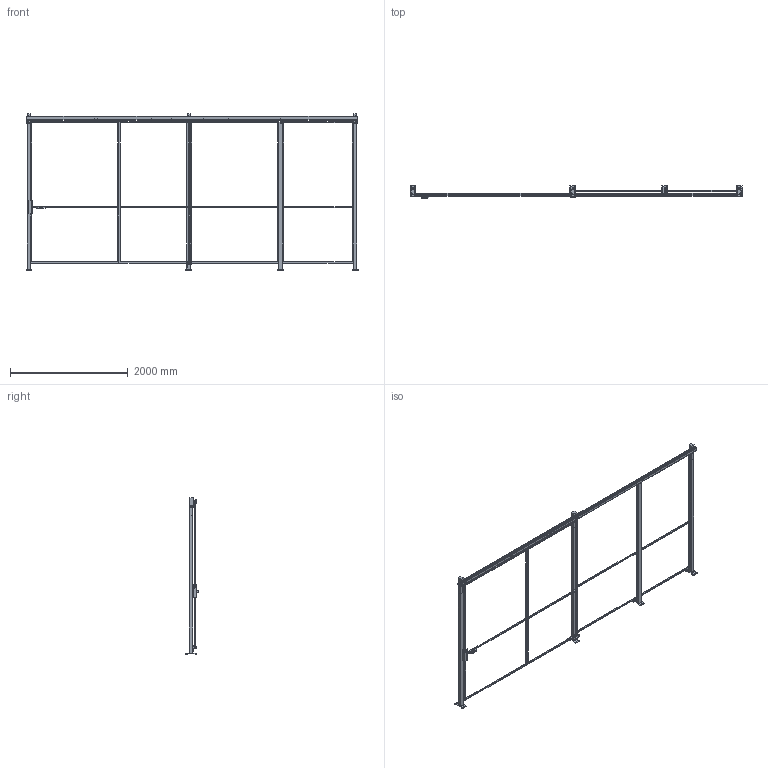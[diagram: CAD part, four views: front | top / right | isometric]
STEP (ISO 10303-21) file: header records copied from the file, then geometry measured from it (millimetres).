
FILE_DESCRIPTION(/* description */ (''),/* implementation_level */ '2;1');
FILE_NAME(/* name */ 'C:\SafeGuarding\ELABORATI\VZOR§POSUVNE_2025-02-05-14-10-46.stp',/* time_stamp */ '2025-02-05T14:10:48+01:00',/* author */ ('admin'),/* organization */ (''),/* preprocessor_version */ 'ST-DEVELOPER v18.1',/* originating_system */ 'AutoCAD Mechanical',/* authorisation */ '');
FILE_SCHEMA (('AUTOMOTIVE_DESIGN { 1 0 10303 214 3 1 1 }'));
Length unit declared in the file: millimetre
Products named in the file (5): Product; VFPA.REPE2012002400; VFPA.REPE2015002400; DATI_PORTA; P_VFMA.ME60SDU.2520
Assembly tree (9 placements, depth 2):
  Product
    P_VFMA.ME60SDU.2520  x4
    VFPA.REPE2012002400  x2
    VFPA.REPE2015002400  x2
    DATI_PORTA
Bounding box: 5630 x 219.95 x 2654 mm (x, y, z)
Volume: 61702352 mm3; surface area: 8620962.5 mm2
Topology: 35 solids, 46 shells, 637 faces, 2272 edges, 2264 vertices
Faces by surface type: plane 587, cylinder 48, sphere 2
Full cylindrical faces by diameter (mm): 11 x16, 12 x2, 15 x4, 40 x4
Entity records: 16286 total; most frequent: CARTESIAN_POINT 3469, DIRECTION 2451, ORIENTED_EDGE 2358, LINE 1271, VECTOR 1271, EDGE_CURVE 1228, VERTEX_POINT 860, AXIS2_PLACEMENT_3D 590
